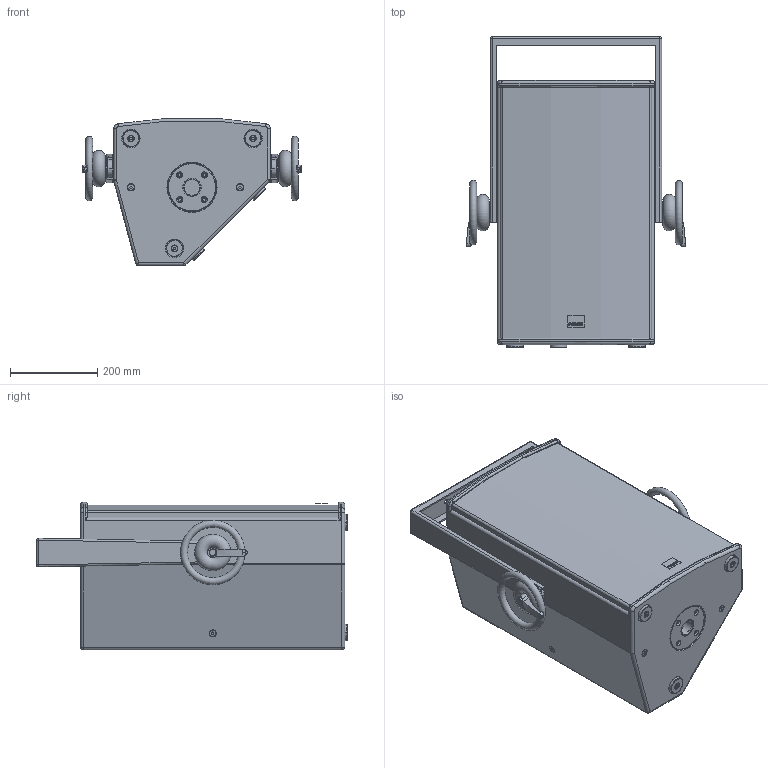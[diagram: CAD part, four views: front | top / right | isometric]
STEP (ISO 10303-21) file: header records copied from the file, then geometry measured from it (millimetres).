
FILE_DESCRIPTION (( 'STEP AP203' ), '1' );
FILE_NAME ('SEEBURG_A6_Bracket-ver.STEP', '2012-09-28T07:54:52', ( 'Fabian' ), ( '' ), 'SwSTEP 2.0', 'SolidWorks 2009', '' );
FILE_SCHEMA (( 'CONFIG_CONTROL_DESIGN' ));
Length unit declared in the file: millimetre
Products named in the file (2): A6_Bracket-ver; SEEBURG_A6_Bracket-ver
Assembly tree (1 placements, depth 2):
  SEEBURG_A6_Bracket-ver
    A6_Bracket-ver
Bounding box: 501.25 x 713 x 338.41 mm (x, y, z)
Surface area: 2601824.9 mm2 (no closed solid volume)
Topology: 0 solids, 33 shells, 851 faces, 2040 edges, 1284 vertices
Faces by surface type: cylinder 341, plane 277, cone 103, torus 102, sphere 18, bspline 10
Entity records: 28800 total; most frequent: CARTESIAN_POINT 8673, DIRECTION 4376, ORIENTED_EDGE 4024, EDGE_CURVE 2016, AXIS2_PLACEMENT_3D 1720, VERTEX_POINT 1272, EDGE_LOOP 974, VECTOR 936
